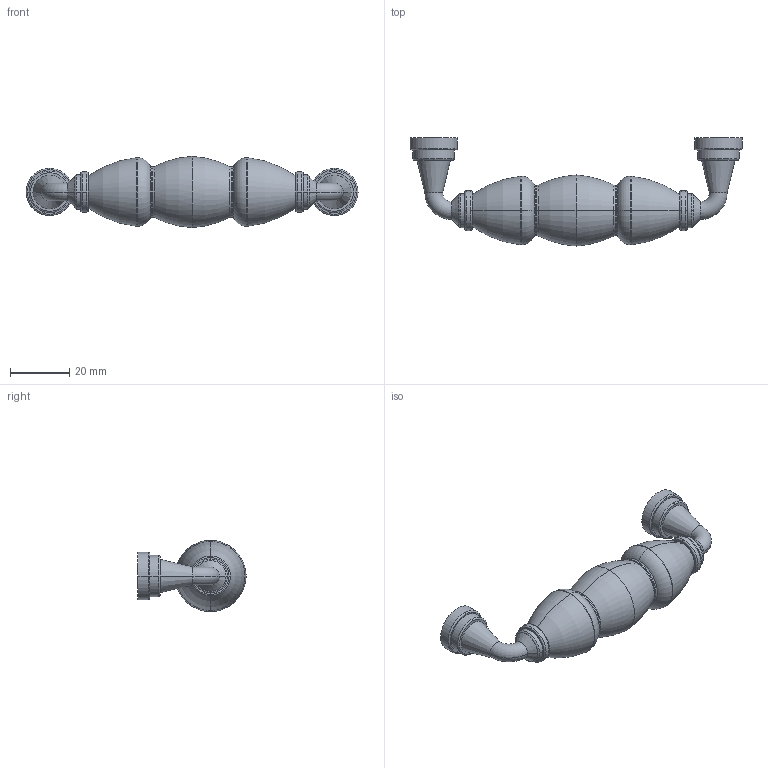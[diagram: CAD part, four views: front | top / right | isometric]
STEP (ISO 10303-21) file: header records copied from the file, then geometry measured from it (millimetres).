
FILE_DESCRIPTION( ( '' ), '1' );
FILE_NAME( 'D:/1.AUTOCAD EXPORT/Group 10/sheet_10_1/9113550.stp', '2013-10-17T04:40:05', ( '' ), ( '' ), ' ', ' ', ' ' );
FILE_SCHEMA( ( 'automotive_design' ) );
Length unit declared in the file: millimetre
Products named in the file (1): 1
Bounding box: 112 x 36.5 x 24 mm (x, y, z)
Volume: 28201.4 mm3; surface area: 7935.1 mm2
Topology: 1 solids, 1 shells, 92 faces, 231 edges, 151 vertices
Faces by surface type: torus 48, cylinder 24, plane 12, cone 8
Entity records: 5552 total; most frequent: DIRECTION 616, STYLED_ITEM 475, PRESENTATION_STYLE_ASSIGNMENT 475, CARTESIAN_POINT 475, COLOUR_RGB 475, ORIENTED_EDGE 462, AXIS2_PLACEMENT_3D 292, EDGE_CURVE 231
